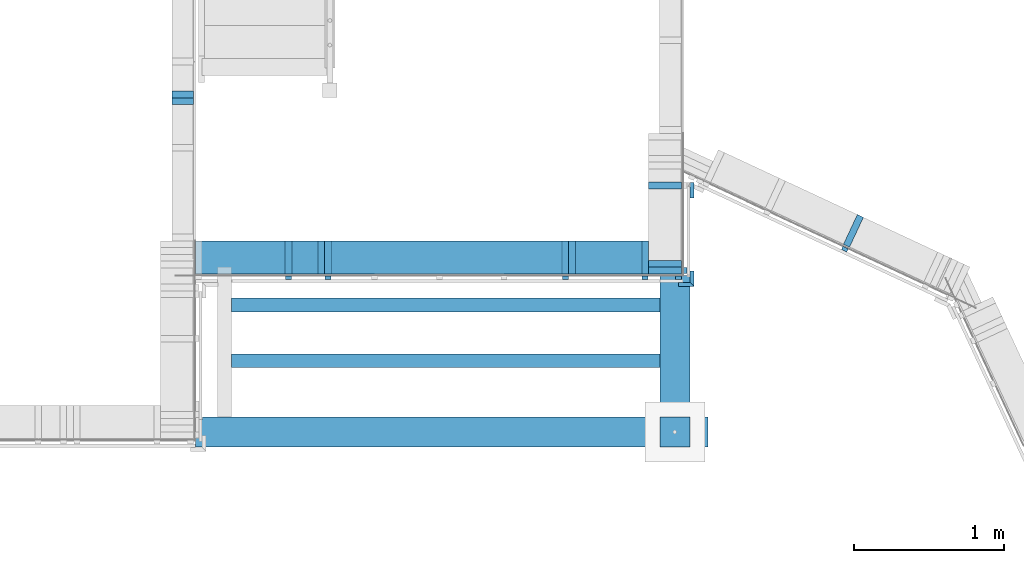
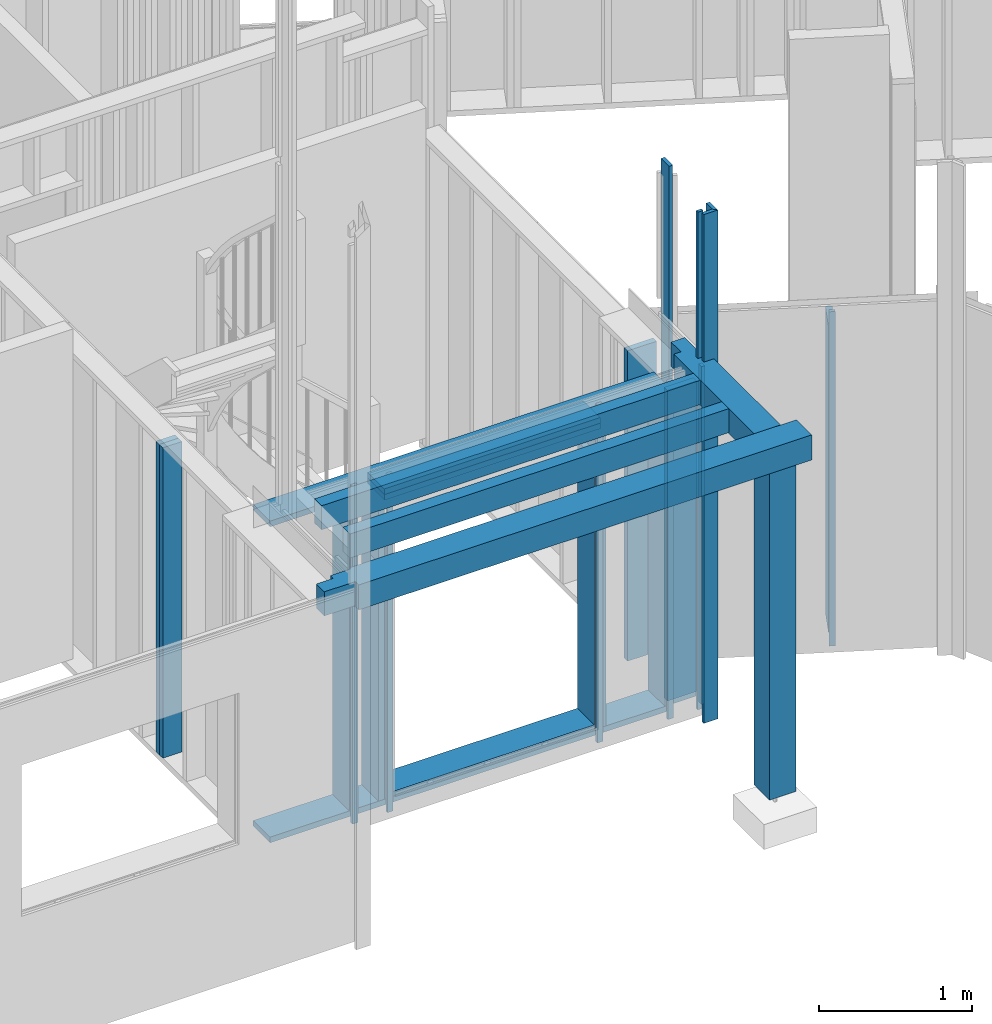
# One storey, part 5 of 34: 28 members, 5 beams.
"""IFC2X3 building model written with IfcOpenShell, lengths in metres."""

from ifc_helpers import new_model, si_unit, direction, frame, origin_with_axes, place, context, subcontext, project, spatial, faceted_brep, material, element, save


model = new_model("IFC2X3")

# Units and contexts
model_context = context("Model", 3, precision=1e-06, world=origin_with_axes(), true_north=direction((0.0, 1.0, 0.0)))
body_context = subcontext(model_context, "Body", "Model", "MODEL_VIEW")
ifc_project = project(units=[si_unit("LENGTHUNIT", "METRE"), si_unit("AREAUNIT", "SQUARE_METRE"), si_unit("VOLUMEUNIT", "CUBIC_METRE"), si_unit("PLANEANGLEUNIT", "RADIAN")], contexts=[model_context])

# Site, building, storey
site_placement = place(None, origin_with_axes())
site = spatial("IfcSite", under=ifc_project, at=site_placement, CompositionType="ELEMENT")
building_placement = place(site_placement, origin_with_axes())
building = spatial("IfcBuilding", under=site, at=building_placement, Name="Building 1", CompositionType="ELEMENT")
storey_placement = place(building_placement, origin_with_axes())
storey = spatial("IfcBuildingStorey", under=building, at=storey_placement, Name="Rez de chaussée", CompositionType="ELEMENT", Elevation=0.0)

# Members
ifc_material_1 = material(Name="Epicéa C24")
member_1_placement = place(storey_placement, frame((5.9199376, 1.2228281, 2.26), z_axis=(0.0, -1.0, 0.0), x_axis=(0.0, 0.0, -1.0)))
element("IfcMember", 1, at=member_1_placement, inside=storey, material=ifc_material_1, Name="Montant", context=body_context, shape_type="Brep", body=[
    faceted_brep([(2.17, -0.0225, -0.11), (2.17, 0.0225, -0.11), (2.17, 0.0225, 0.11), (2.17, -0.0225, 0.11), (0.0, -0.0225, 0.11), (0.0, -0.0225, -0.11), (0.0, 0.0225, -0.11), (0.0, 0.0225, 0.11)], [[[0, 1, 2, 3]], [[0, 3, 4, 5]], [[1, 0, 5, 6]], [[2, 1, 6, 7]], [[3, 2, 7, 4]], [[4, 7, 6, 5]]]),
])
member_2_placement = place(storey_placement, frame((7.7881, 1.2774152, 2.675), z_axis=(-0.4226183, -0.9063078, 0.0), x_axis=(0.0, 0.0, -1.0)))
element("IfcMember", 2, at=member_2_placement, inside=storey, material=ifc_material_1, Name="latte 27/40", context=body_context, shape_type="Brep", body=[
    faceted_brep([(2.67, -0.02, 0.012), (0.0, -0.02, 0.012), (0.0, -0.02, -0.012), (2.67, -0.02, -0.012), (0.0, 0.02, -0.012), (2.67, 0.02, -0.012), (0.0, 0.02, 0.012), (2.67, 0.02, 0.012)], [[[0, 1, 2, 3]], [[2, 4, 5, 3]], [[6, 7, 5, 4]], [[6, 1, 0, 7]], [[1, 6, 4, 2]], [[7, 0, 3, 5]]]),
])
member_3_placement = place(storey_placement, frame((6.476, 1.2228281, 0.0675), z_axis=(0.0, -1.0, 0.0), x_axis=(-1.0, 0.0, 0.0)))
element("IfcMember", 3, at=member_3_placement, inside=storey, material=ifc_material_1, Name="Lisse basse", context=body_context, shape_type="Brep", body=[
    faceted_brep([(3.028, 0.0225, 0.11), (0.0, 0.0225, 0.11), (0.0, -0.0225, 0.11), (3.028, -0.0225, 0.11), (0.0, -0.0225, -0.11), (3.028, -0.0225, -0.11), (0.0, 0.0225, -0.11), (3.028, 0.0225, -0.11)], [[[0, 1, 2, 3]], [[4, 5, 3, 2]], [[6, 4, 2, 1]], [[5, 7, 0, 3]], [[7, 5, 4, 6]], [[0, 7, 6, 1]]]),
])
member_4_placement = place(storey_placement, frame((6.586, 1.7032125, 2.568), z_axis=(1.0, 0.0, 0.0), x_axis=(0.0, 0.0, -1.0)))
element("IfcMember", 4, at=member_4_placement, inside=storey, material=ifc_material_1, Name="Montant", context=body_context, shape_type="Brep", body=[
    faceted_brep([(2.478, -0.0225, -0.11), (2.478, 0.0225, -0.11), (2.478, 0.0225, 0.11), (2.478, -0.0225, 0.11), (0.0, -0.0225, 0.11), (0.0, -0.0225, -0.11), (0.0, 0.0225, -0.11), (0.0, 0.0225, 0.11)], [[[0, 1, 2, 3]], [[0, 3, 4, 5]], [[1, 0, 5, 6]], [[2, 1, 6, 7]], [[3, 2, 7, 4]], [[4, 7, 6, 5]]]),
])
member_5_placement = place(storey_placement, frame((5.9199376, 1.0878281, 2.703), z_axis=(0.0, -1.0, 0.0), x_axis=(0.0, 0.0, -1.0)))
element("IfcMember", 5, at=member_5_placement, inside=storey, material=ifc_material_1, Name="latte 27/40", context=body_context, shape_type="Brep", body=[
    faceted_brep([(2.698, 0.02, -0.012), (2.698, 0.02, 0.012), (2.698, -0.02, 0.012), (2.698, -0.02, -0.012), (0.0, 0.02, 0.012), (0.0, 0.02, -0.012), (0.0, -0.02, -0.012), (0.0, -0.02, 0.012)], [[[0, 1, 2, 3]], [[4, 5, 6, 7]], [[3, 6, 5, 0]], [[2, 7, 6, 3]], [[1, 4, 7, 2]], [[0, 5, 4, 1]]]),
])
member_6_placement = place(storey_placement, frame((5.9424376, 1.2228281, 2.5005), z_axis=(0.0, -1.0, 0.0), x_axis=(-1.0, 0.0, 0.0)))
element("IfcMember", 6, at=member_6_placement, inside=storey, material=ifc_material_1, Name="Montant", context=body_context, shape_type="Brep", body=[
    faceted_brep([(0.0, 0.0225, -0.11), (0.0, -0.0225, -0.11), (0.0, -0.0225, 0.11), (0.0, 0.0225, 0.11), (1.63, -0.0225, -0.11), (1.63, 0.0225, -0.11), (1.63, 0.0225, 0.11), (1.63, -0.0225, 0.11)], [[[0, 1, 2, 3]], [[4, 5, 6, 7]], [[4, 7, 2, 1]], [[5, 4, 1, 0]], [[6, 5, 0, 3]], [[7, 6, 3, 2]]]),
])
ifc_material_2 = material(Name="NH II")
member_7_placement = place(storey_placement, frame((6.7675, 1.6707125, -0.08), z_axis=(0.0, 1.0, 0.0), x_axis=(0.0, 0.0, 1.0)))
element("IfcMember", 7, at=member_7_placement, inside=storey, material=ifc_material_2, Name="Couvre joint", context=body_context, shape_type="Brep", body=[
    faceted_brep([(4.0628151, 0.0135, -0.0525), (4.0628151, 0.0135, 0.0525), (4.0628151, -0.0135, 0.0525), (4.0628151, -0.0135, -0.0525), (0.0, 0.0135, 0.0525), (0.0, 0.0135, -0.0525), (0.0, -0.0135, -0.0525), (0.0, -0.0135, 0.0525)], [[[0, 1, 2, 3]], [[4, 5, 6, 7]], [[3, 6, 5, 0]], [[2, 7, 6, 3]], [[1, 4, 7, 2]], [[0, 5, 4, 1]]]),
])
member_8_placement = place(storey_placement, frame((7.8451535, 1.3997667, 2.54), z_axis=(-0.4226183, -0.9063078, 0.0), x_axis=(0.0, 0.0, -1.0)))
element("IfcMember", 8, at=member_8_placement, inside=storey, material=ifc_material_1, Name="Montant", context=body_context, shape_type="Brep", body=[
    faceted_brep([(2.45, -0.0225, -0.11), (2.45, -0.0225, 0.11), (0.0, -0.0225, 0.11), (0.0, -0.0225, -0.11), (2.45, 0.0225, -0.11), (0.0, 0.0225, -0.11), (2.45, 0.0225, 0.11), (0.0, 0.0225, 0.11)], [[[0, 1, 2, 3]], [[4, 0, 3, 5]], [[6, 4, 5, 7]], [[1, 6, 7, 2]], [[0, 4, 6, 1]], [[2, 7, 5, 3]]]),
])

# Beams
beam_1_placement = place(storey_placement, frame((6.552, 0.5324141, 2.709), z_axis=(0.0, 0.0, -1.0), x_axis=(-1.0, 0.0, 0.0)))
element("IfcBeam", 9, at=beam_1_placement, inside=storey, material=ifc_material_2, Name="Solive balcon", context=body_context, shape_type="Brep", body=[
    faceted_brep([(2.862, 0.046, 0.096), (2.862, -0.046, 0.096), (2.862, -0.046, -0.096), (2.862, 0.046, -0.096), (0.0, -0.046, 0.096), (0.0, -0.046, -0.096), (0.0, 0.046, 0.096), (0.0, 0.046, -0.096)], [[[0, 1, 2, 3]], [[2, 1, 4, 5]], [[1, 0, 6, 4]], [[5, 4, 6, 7]], [[0, 3, 7, 6]], [[3, 2, 5, 7]]]),
])
beam_2_placement = place(storey_placement, frame((6.652, 0.156, 2.705), z_axis=(0.0, 0.0, -1.0), x_axis=(0.0, 1.0, 0.0)))
element("IfcBeam", 10, at=beam_2_placement, inside=storey, material=ifc_material_2, Name="Solive balcon", context=body_context, shape_type="Brep", body=[
    faceted_brep([(1.1768281, -0.048, 0.092), (1.0488281, -0.048, 0.092), (1.0488281, -0.048, -0.1), (1.1768281, -0.048, -0.1), (1.0488281, -0.1, 0.092), (1.0488281, -0.1, -0.1), (1.1768281, 0.056, -0.1), (1.1768281, 0.056, 0.092), (0.0, -0.1, -0.1), (0.0, 0.1, -0.1), (0.9448281, 0.1, -0.1), (0.9448281, 0.056, -0.1), (0.9568281, -0.1, 0.1), (0.9568281, -0.1, 0.092), (0.9568281, 0.056, 0.092), (0.9568281, 0.056, 0.1), (0.9448281, 0.056, 0.1), (0.9448281, 0.1, 0.1), (0.0, 0.1, 0.1), (0.0, -0.1, 0.1)], [[[0, 1, 2, 3]], [[1, 4, 5, 2]], [[0, 3, 6, 7]], [[3, 2, 5, 8, 9, 10, 11, 6]], [[12, 13, 14, 15]], [[1, 0, 7, 14, 13, 4]], [[12, 15, 16, 17, 18, 19]], [[15, 14, 7, 6, 11, 16]], [[17, 16, 11, 10]], [[17, 10, 9, 18]], [[18, 9, 8, 19]], [[5, 4, 13, 12, 19, 8]]]),
])

# Member
member_9_placement = place(storey_placement, frame((6.721, 1.1353281, 2.703), z_axis=(1.0, 0.0, 0.0), x_axis=(0.0, 0.0, -1.0)))
element("IfcMember", 11, at=member_9_placement, inside=storey, material=ifc_material_1, Name="latte 27/40", context=body_context, shape_type="Brep", body=[
    faceted_brep([(0.0, -0.02, 0.012), (0.0, 0.02, 0.012), (0.0, 0.02, -0.012), (0.0, -0.02, -0.012), (2.698, 0.02, -0.012), (2.698, -0.02, -0.012), (2.698, 0.02, 0.012), (2.698, -0.02, 0.012)], [[[0, 1, 2, 3]], [[3, 2, 4, 5]], [[2, 1, 6, 4]], [[1, 0, 7, 6]], [[6, 7, 5, 4]], [[0, 3, 5, 7]]]),
])

# Beam
beam_3_placement = place(storey_placement, frame((6.652, 0.056, 0.0), z_axis=(-1.0, 0.0, 0.0), x_axis=(0.0, 0.0, 1.0)))
element("IfcBeam", 12, at=beam_3_placement, inside=storey, material=ifc_material_2, Name="Poteau", context=body_context, shape_type="Brep", body=[
    faceted_brep([(2.605, -0.1, -0.1), (2.605, 0.1, -0.1), (2.605, 0.1, 0.1), (2.605, -0.1, 0.1), (0.0, 0.1, -0.1), (0.0, -0.1, -0.1), (0.0, -0.1, 0.1), (0.0, 0.1, 0.1)], [[[0, 1, 2, 3]], [[4, 5, 6, 7]], [[3, 6, 5, 0]], [[2, 7, 6, 3]], [[1, 4, 7, 2]], [[0, 5, 4, 1]]]),
])

# Members
member_10_placement = place(storey_placement, frame((6.678, 1.0878281, 3.9778151), z_axis=(0.0, -1.0, 0.0), x_axis=(0.0, 0.0, -1.0)))
element("IfcMember", 13, at=member_10_placement, inside=storey, material=ifc_material_1, Name="latte chantier", context=body_context, shape_type="Brep", body=[
    faceted_brep([(1.1678151, 0.02, -0.012), (1.1678151, 0.02, 0.012), (1.1678151, -0.02, 0.012), (1.1678151, -0.02, -0.012), (0.0, 0.02, 0.012), (0.0, 0.02, -0.012), (0.0, -0.02, -0.012), (0.0, -0.02, 0.012)], [[[0, 1, 2, 3]], [[4, 5, 6, 7]], [[3, 6, 5, 0]], [[2, 7, 6, 3]], [[1, 4, 7, 2]], [[0, 5, 4, 1]]]),
])
member_11_placement = place(storey_placement, frame((6.476, 1.2228281, 2.5905), z_axis=(0.0, -1.0, 0.0), x_axis=(-1.0, 0.0, 0.0)))
element("IfcMember", 14, at=member_11_placement, inside=storey, material=ifc_material_1, Name="Montant", context=body_context, shape_type="Brep", body=[
    faceted_brep([(3.028, 0.0225, 0.11), (0.0, 0.0225, 0.11), (0.0, -0.0225, 0.11), (3.028, -0.0225, 0.11), (0.0, -0.0225, -0.11), (3.028, -0.0225, -0.11), (0.0, 0.0225, -0.11), (3.028, 0.0225, -0.11)], [[[0, 1, 2, 3]], [[4, 5, 3, 2]], [[6, 4, 2, 1]], [[5, 7, 0, 3]], [[7, 5, 4, 6]], [[0, 7, 6, 1]]]),
])
for number, where, z_axis, x_axis, name in (
    (15, (6.586, 1.1353281, 2.568), (1.0, 0.0, 0.0), (0.0, 0.0, -1.0), "Montant"),
    (16, (6.586, 1.1803281, 2.568), (1.0, 0.0, 0.0), (0.0, 0.0, -1.0), "Montant"),
):
    element("IfcMember", number, at=place(storey_placement, frame(where, z_axis=z_axis, x_axis=x_axis)), inside=storey, material=ifc_material_1, Name=name, context=body_context, shape_type="Brep", body=[
        faceted_brep([(2.478, -0.0225, -0.11), (2.478, 0.0225, -0.11), (2.478, 0.0225, 0.11), (2.478, -0.0225, 0.11), (0.0, -0.0225, 0.11), (0.0, -0.0225, -0.11), (0.0, 0.0225, -0.11), (0.0, 0.0225, 0.11)], [[[0, 1, 2, 3]], [[0, 3, 4, 5]], [[1, 0, 5, 6]], [[2, 1, 6, 7]], [[3, 2, 7, 4]], [[4, 7, 6, 5]]]),
    ])
member_12_placement = place(storey_placement, frame((4.0705, 1.0878281, 2.703), z_axis=(0.0, 1.0, 0.0), x_axis=(0.0, 0.0, -1.0)))
element("IfcMember", 17, at=member_12_placement, inside=storey, material=ifc_material_1, Name="latte 27/40", context=body_context, shape_type="Brep", body=[
    faceted_brep([(2.698, 0.02, -0.012), (2.698, 0.02, 0.012), (2.698, -0.02, 0.012), (2.698, -0.02, -0.012), (0.0, 0.02, 0.012), (0.0, 0.02, -0.012), (0.0, -0.02, -0.012), (0.0, -0.02, 0.012)], [[[0, 1, 2, 3]], [[4, 5, 6, 7]], [[3, 6, 5, 0]], [[2, 7, 6, 3]], [[1, 4, 7, 2]], [[0, 5, 4, 1]]]),
])
member_13_placement = place(storey_placement, frame((4.0705, 1.2228281, 2.568), z_axis=(0.0, 1.0, 0.0), x_axis=(0.0, 0.0, -1.0)))
element("IfcMember", 18, at=member_13_placement, inside=storey, material=ifc_material_1, Name="Montant", context=body_context, shape_type="Brep", body=[
    faceted_brep([(2.478, -0.0225, -0.11), (2.478, 0.0225, -0.11), (2.478, 0.0225, 0.11), (2.478, -0.0225, 0.11), (0.0, -0.0225, 0.11), (0.0, -0.0225, -0.11), (0.0, 0.0225, -0.11), (0.0, 0.0225, 0.11)], [[[0, 1, 2, 3]], [[0, 3, 4, 5]], [[1, 0, 5, 6]], [[2, 1, 6, 7]], [[3, 2, 7, 4]], [[4, 7, 6, 5]]]),
])
member_14_placement = place(storey_placement, frame((6.676, 1.0878281, 2.605), z_axis=(0.0, -1.0, 0.0), x_axis=(0.0, 0.0, -1.0)))
element("IfcMember", 19, at=member_14_placement, inside=storey, material=ifc_material_1, Name="latte chantier", context=body_context, shape_type="Brep", body=[
    faceted_brep([(2.6, 0.02, -0.012), (2.6, 0.02, 0.012), (2.6, -0.02, 0.012), (2.6, -0.02, -0.012), (0.0, 0.02, 0.012), (0.0, 0.02, -0.012), (0.0, -0.02, -0.012), (0.0, -0.02, 0.012)], [[[0, 1, 2, 3]], [[4, 5, 6, 7]], [[3, 6, 5, 0]], [[2, 7, 6, 3]], [[1, 4, 7, 2]], [[0, 5, 4, 1]]]),
])
member_15_placement = place(storey_placement, frame((6.4535, 1.0878281, 2.703), z_axis=(0.0, -1.0, 0.0), x_axis=(0.0, 0.0, -1.0)))
element("IfcMember", 20, at=member_15_placement, inside=storey, material=ifc_material_1, Name="latte 27/40", context=body_context, shape_type="Brep", body=[
    faceted_brep([(2.698, 0.02, -0.012), (2.698, 0.02, 0.012), (2.698, -0.02, 0.012), (2.698, -0.02, -0.012), (0.0, 0.02, 0.012), (0.0, 0.02, -0.012), (0.0, -0.02, -0.012), (0.0, -0.02, 0.012)], [[[0, 1, 2, 3]], [[4, 5, 6, 7]], [[3, 6, 5, 0]], [[2, 7, 6, 3]], [[1, 4, 7, 2]], [[0, 5, 4, 1]]]),
])
for number, where, z_axis, x_axis, name in (
    (21, (4.2899376, 1.2228281, 2.568), (0.0, -1.0, 0.0), (0.0, 0.0, -1.0), "Montant"),
    (22, (6.4535, 1.2228281, 2.568), (0.0, -1.0, 0.0), (0.0, 0.0, -1.0), "Montant"),
):
    element("IfcMember", number, at=place(storey_placement, frame(where, z_axis=z_axis, x_axis=x_axis)), inside=storey, material=ifc_material_1, Name=name, context=body_context, shape_type="Brep", body=[
        faceted_brep([(2.478, -0.0225, -0.11), (2.478, 0.0225, -0.11), (2.478, 0.0225, 0.11), (2.478, -0.0225, 0.11), (0.0, -0.0225, 0.11), (0.0, -0.0225, -0.11), (0.0, 0.0225, -0.11), (0.0, 0.0225, 0.11)], [[[0, 1, 2, 3]], [[0, 3, 4, 5]], [[1, 0, 5, 6]], [[2, 1, 6, 7]], [[3, 2, 7, 4]], [[4, 7, 6, 5]]]),
    ])
member_16_placement = place(storey_placement, frame((6.7285, 1.0413281, -0.08), z_axis=(1.0, 0.0, 0.0), x_axis=(0.0, 0.0, 1.0)))
element("IfcMember", 23, at=member_16_placement, inside=storey, material=ifc_material_2, Name="Couvre joint", context=body_context, shape_type="Brep", body=[
    faceted_brep([(0.0, 0.0135, 0.0525), (0.0, -0.0135, 0.0255), (4.0628151, -0.0135, 0.0255), (4.0628151, 0.0135, 0.0525), (4.0628151, -0.0135, -0.0525), (4.0628151, 0.0135, -0.0525), (0.0, -0.0135, -0.0525), (0.0, 0.0135, -0.0525)], [[[0, 1, 2, 3]], [[3, 2, 4, 5]], [[2, 1, 6, 4]], [[1, 0, 7, 6]], [[4, 6, 7, 5]], [[5, 7, 0, 3]]]),
])
member_17_placement = place(storey_placement, frame((4.3349376, 1.2228281, 2.26), z_axis=(0.0, -1.0, 0.0), x_axis=(0.0, 0.0, -1.0)))
element("IfcMember", 24, at=member_17_placement, inside=storey, material=ifc_material_1, Name="Montant", context=body_context, shape_type="Brep", body=[
    faceted_brep([(2.17, -0.0225, -0.11), (2.17, 0.0225, -0.11), (2.17, 0.0225, 0.11), (2.17, -0.0225, 0.11), (0.0, -0.0225, 0.11), (0.0, -0.0225, -0.11), (0.0, 0.0225, -0.11), (0.0, 0.0225, 0.11)], [[[0, 1, 2, 3]], [[0, 3, 4, 5]], [[1, 0, 5, 6]], [[2, 1, 6, 7]], [[3, 2, 7, 4]], [[4, 7, 6, 5]]]),
])
member_18_placement = place(storey_placement, frame((5.9424376, 1.2228281, 2.5455), z_axis=(0.0, -1.0, 0.0), x_axis=(-1.0, 0.0, 0.0)))
element("IfcMember", 25, at=member_18_placement, inside=storey, material=ifc_material_1, Name="Montant", context=body_context, shape_type="Brep", body=[
    faceted_brep([(0.0, 0.0225, -0.11), (0.0, -0.0225, -0.11), (0.0, -0.0225, 0.11), (0.0, 0.0225, 0.11), (1.63, -0.0225, -0.11), (1.63, 0.0225, -0.11), (1.63, 0.0225, 0.11), (1.63, -0.0225, 0.11)], [[[0, 1, 2, 3]], [[4, 5, 6, 7]], [[4, 7, 2, 1]], [[5, 4, 1, 0]], [[6, 5, 0, 3]], [[7, 6, 3, 2]]]),
])
member_19_placement = place(storey_placement, frame((5.8974376, 1.2228281, 0.1095), z_axis=(0.0, -1.0, 0.0), x_axis=(-1.0, 0.0, 0.0)))
element("IfcMember", 26, at=member_19_placement, inside=storey, material=ifc_material_1, Name="Montant", context=body_context, shape_type="Brep", body=[
    faceted_brep([(1.54, 0.0195, 0.11), (0.0, 0.0195, 0.11), (0.0, -0.0195, 0.11), (1.54, -0.0195, 0.11), (0.0, -0.0195, -0.11), (1.54, -0.0195, -0.11), (0.0, 0.0195, -0.11), (1.54, 0.0195, -0.11)], [[[0, 1, 2, 3]], [[2, 4, 5, 3]], [[4, 2, 1, 6]], [[3, 5, 7, 0]], [[5, 4, 6, 7]], [[0, 7, 6, 1]]]),
])
member_20_placement = place(storey_placement, frame((4.3349376, 1.0878281, 2.703), z_axis=(0.0, -1.0, 0.0), x_axis=(0.0, 0.0, -1.0)))
element("IfcMember", 27, at=member_20_placement, inside=storey, material=ifc_material_1, Name="latte 27/40", context=body_context, shape_type="Brep", body=[
    faceted_brep([(2.698, 0.02, -0.012), (2.698, 0.02, 0.012), (2.698, -0.02, 0.012), (2.698, -0.02, -0.012), (0.0, 0.02, 0.012), (0.0, 0.02, -0.012), (0.0, -0.02, -0.012), (0.0, -0.02, 0.012)], [[[0, 1, 2, 3]], [[4, 5, 6, 7]], [[3, 6, 5, 0]], [[2, 7, 6, 3]], [[1, 4, 7, 2]], [[0, 5, 4, 1]]]),
])
member_21_placement = place(storey_placement, frame((5.9649376, 1.2228281, 2.568), z_axis=(0.0, -1.0, 0.0), x_axis=(0.0, 0.0, -1.0)))
element("IfcMember", 28, at=member_21_placement, inside=storey, material=ifc_material_1, Name="Montant", context=body_context, shape_type="Brep", body=[
    faceted_brep([(2.478, -0.0225, -0.11), (2.478, 0.0225, -0.11), (2.478, 0.0225, 0.11), (2.478, -0.0225, 0.11), (0.0, -0.0225, 0.11), (0.0, -0.0225, -0.11), (0.0, 0.0225, -0.11), (0.0, 0.0225, 0.11)], [[[0, 1, 2, 3]], [[0, 3, 4, 5]], [[1, 0, 5, 6]], [[2, 1, 6, 7]], [[3, 2, 7, 4]], [[4, 7, 6, 5]]]),
])

# Beams
beam_4_placement = place(storey_placement, frame((6.872, 0.056, 2.705), z_axis=(0.0, 0.0, -1.0), x_axis=(-1.0, 0.0, 0.0)))
element("IfcBeam", 29, at=beam_4_placement, inside=storey, material=ifc_material_2, Name="Solive balcon", context=body_context, shape_type="Brep", body=[
    faceted_brep([(3.376, 0.1, 0.1), (3.376, 0.085, 0.1), (3.376, 0.085, -0.1), (3.376, 0.1, -0.1), (3.424, 0.085, 0.1), (3.424, 0.085, 0.092), (3.528, 0.085, 0.092), (3.528, 0.085, -0.1), (0.0, 0.1, 0.1), (0.0, -0.1, 0.1), (3.422, -0.1, 0.1), (3.422, -0.056, 0.1), (3.424, -0.056, 0.1), (0.0, 0.1, -0.1), (3.528, 0.048, -0.1), (3.656, 0.048, -0.1), (3.656, -0.056, -0.1), (3.422, -0.056, -0.1), (3.422, -0.1, -0.1), (0.0, -0.1, -0.1), (3.424, -0.056, 0.092), (3.656, -0.056, 0.092), (3.656, 0.048, 0.092), (3.528, 0.048, 0.092)], [[[0, 1, 2, 3]], [[1, 4, 5, 6, 7, 2]], [[4, 1, 0, 8, 9, 10, 11, 12]], [[0, 3, 13, 8]], [[3, 2, 7, 14, 15, 16, 17, 18, 19, 13]], [[11, 10, 18, 17]], [[5, 4, 12, 20]], [[6, 5, 20, 21, 22, 23]], [[7, 6, 23, 14]], [[23, 22, 15, 14]], [[22, 21, 16, 15]], [[18, 10, 9, 19]], [[19, 9, 8, 13]], [[21, 20, 12, 11, 17, 16]]]),
])
beam_5_placement = place(storey_placement, frame((6.552, 0.9048281, 2.709), z_axis=(0.0, 0.0, -1.0), x_axis=(-1.0, 0.0, 0.0)))
element("IfcBeam", 30, at=beam_5_placement, inside=storey, material=ifc_material_2, Name="Solive balcon", context=body_context, shape_type="Brep", body=[
    faceted_brep([(2.862, 0.046, 0.096), (2.862, -0.046, 0.096), (2.862, -0.046, -0.096), (2.862, 0.046, -0.096), (0.0, -0.046, 0.096), (0.0, -0.046, -0.096), (0.0, 0.046, 0.096), (0.0, 0.046, -0.096)], [[[0, 1, 2, 3]], [[2, 1, 4, 5]], [[1, 0, 6, 4]], [[5, 4, 6, 7]], [[0, 3, 7, 6]], [[3, 2, 5, 7]]]),
])

# Members
member_22_placement = place(storey_placement, frame((3.3635, 2.2657176, 2.568), z_axis=(1.0, 0.0, 0.0), x_axis=(0.0, 0.0, -1.0)))
element("IfcMember", 31, at=member_22_placement, inside=storey, material=ifc_material_1, Name="Montant", context=body_context, shape_type="Brep", body=[
    faceted_brep([(2.478, -0.0225, -0.0725), (2.478, 0.0225, -0.0725), (2.478, 0.0225, 0.0725), (2.478, -0.0225, 0.0725), (0.0, 0.0225, -0.0725), (0.0, 0.0225, 0.0725), (0.0, -0.0225, -0.0725), (0.0, -0.0225, 0.0725)], [[[0, 1, 2, 3]], [[2, 1, 4, 5]], [[1, 0, 6, 4]], [[0, 3, 7, 6]], [[3, 2, 5, 7]], [[7, 5, 4, 6]]]),
])
member_23_placement = place(storey_placement, frame((6.7675, 1.0803281, -0.08), z_axis=(0.0, 1.0, 0.0), x_axis=(0.0, 0.0, 1.0)))
element("IfcMember", 32, at=member_23_placement, inside=storey, material=ifc_material_2, Name="Couvre joint", context=body_context, shape_type="Brep", body=[
    faceted_brep([(0.0, -0.0135, -0.0255), (0.0, 0.0135, -0.0525), (4.0628151, 0.0135, -0.0525), (4.0628151, -0.0135, -0.0255), (0.0, -0.0135, 0.0525), (0.0, 0.0135, 0.0525), (4.0628151, 0.0135, 0.0525), (4.0628151, -0.0135, 0.0525)], [[[0, 1, 2, 3]], [[1, 0, 4, 5]], [[3, 2, 6, 7]], [[0, 3, 7, 4]], [[6, 5, 4, 7]], [[2, 1, 5, 6]]]),
])
member_24_placement = place(storey_placement, frame((3.3635, 2.3107176, 2.568), z_axis=(1.0, 0.0, 0.0), x_axis=(0.0, 0.0, -1.0)))
element("IfcMember", 33, at=member_24_placement, inside=storey, material=ifc_material_1, Name="Montant", context=body_context, shape_type="Brep", body=[
    faceted_brep([(2.478, -0.0225, -0.0725), (2.478, 0.0225, -0.0725), (2.478, 0.0225, 0.0725), (2.478, -0.0225, 0.0725), (0.0, 0.0225, -0.0725), (0.0, 0.0225, 0.0725), (0.0, -0.0225, -0.0725), (0.0, -0.0225, 0.0725)], [[[0, 1, 2, 3]], [[2, 1, 4, 5]], [[1, 0, 6, 4]], [[0, 3, 7, 6]], [[3, 2, 5, 7]], [[7, 5, 4, 6]]]),
])

save(model, "model.ifc")
